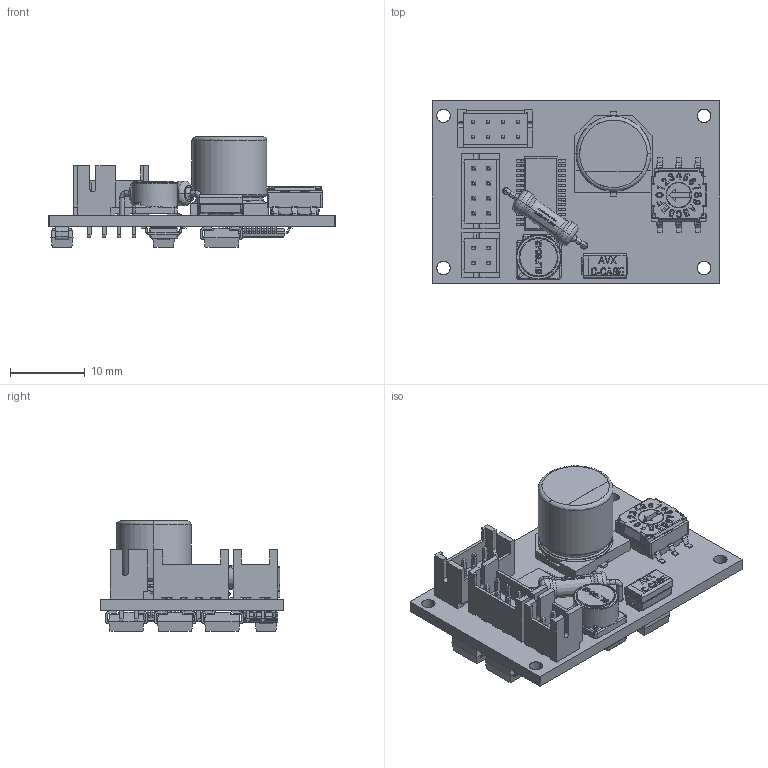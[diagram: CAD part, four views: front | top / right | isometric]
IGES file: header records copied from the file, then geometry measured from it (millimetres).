
Start section: SolidWorks IGES file using analytic representation for surfaces
Global section: file name: C:\Users\User\Desktop\ODB++\Imported 10-0016_D06.PrjPcb\EZSV10_3D.IGS; native system: SolidWorks 2015; preprocessor: SolidWorks 2015; author: wolfgang; date: 160119.115945; units: millimetre
Bounding box: 38.33 x 24.56 x 14.73 mm (x, y, z)
Surface area: 5625.8 mm2 (no closed solid volume)
Topology: 0 solids, 0 shells, 4482 faces, 30600 edges, 30586 vertices
Faces by surface type: bspline 3607, revolution 875
